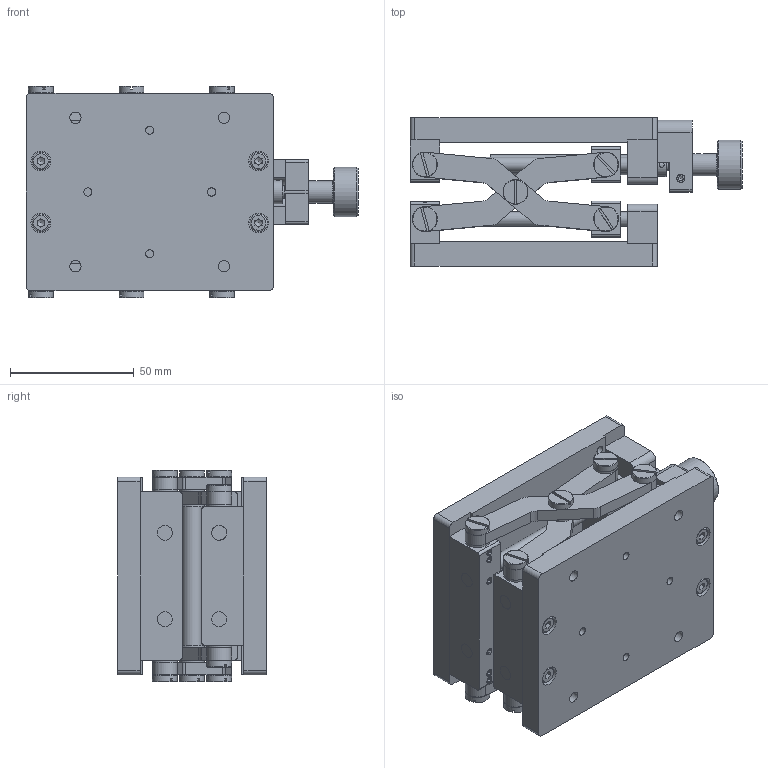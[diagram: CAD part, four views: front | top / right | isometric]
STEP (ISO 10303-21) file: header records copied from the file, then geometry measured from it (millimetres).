
FILE_DESCRIPTION (( 'STEP AP203' ), '1' );
FILE_NAME ('BLJZ80.STEP', '2024-07-15T12:10:28', ( 'Windows User' ), ( 'P R C' ), 'SwSTEP 2.0', 'SolidWorks 2024', '' );
FILE_SCHEMA (( 'CONFIG_CONTROL_DESIGN' ));
Products named in the file (1): BLJZ80
Bounding box: 134.2 x 60 x 85.6 mm (x, y, z)
Volume: 272864.4 mm3; surface area: 115359.2 mm2
Topology: 90 solids, 90 shells, 1380 faces, 3090 edges, 1943 vertices
Faces by surface type: plane 809, cylinder 343, cone 178, bspline 30, torus 20
Full cylindrical faces by diameter (mm): 1.5 x2, 2.05 x2, 2.5 x42, 3 x12, 3.3 x23, 3.5 x10, 4 x27, 4.5 x16, 5 x3, 6 x68, 6.8 x1, 7 x12, 8 x17, 9 x1, 9.5 x1, 10 x23, 11 x3, 12.5 x2, 13 x2, 20 x1
Entity records: 49477 total; most frequent: CARTESIAN_POINT 21083, DIRECTION 5946, ORIENTED_EDGE 5000, EDGE_CURVE 2500, AXIS2_PLACEMENT_3D 2351, EDGE_LOOP 2072, VERTEX_POINT 1802, FACE_OUTER_BOUND 1658
